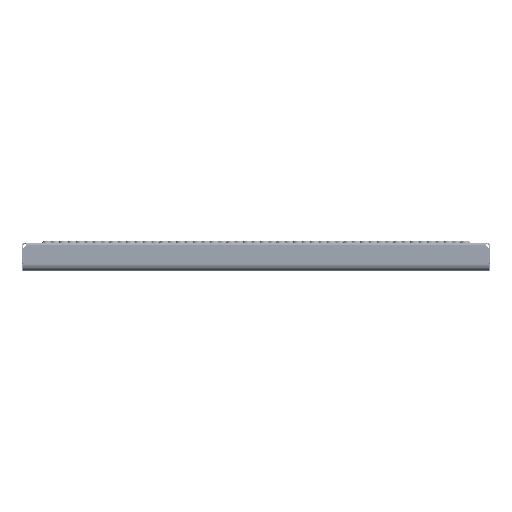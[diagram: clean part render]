
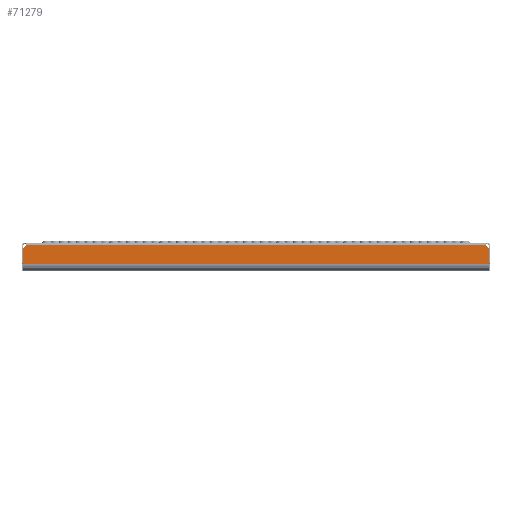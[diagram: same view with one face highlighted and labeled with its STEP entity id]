
A CAD part, top view. The second image highlights one B-rep face of the part: STEP entity #71279.
In plain terms, the highlighted planar face has unit normal (0, 0, 1).
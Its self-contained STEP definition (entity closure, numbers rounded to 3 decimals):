
#353 = DIRECTION ( 'NONE',  ( 1., 0., 0. ) ) ;
#1780 = DIRECTION ( 'NONE',  ( 0., 1., 0. ) ) ;
#12132 = ORIENTED_EDGE ( 'NONE', *, *, #234662, .F. ) ;
#21401 = ORIENTED_EDGE ( 'NONE', *, *, #286156, .T. ) ;
#23781 = VERTEX_POINT ( 'NONE', #144482 ) ;
#25395 = VERTEX_POINT ( 'NONE', #149241 ) ;
#26067 = AXIS2_PLACEMENT_3D ( 'NONE', #336856, #100936, #342008 ) ;
#27793 = LINE ( 'NONE', #189159, #295708 ) ;
#46678 = DIRECTION ( 'NONE',  ( 0., -1., 0. ) ) ;
#56649 = VECTOR ( 'NONE', #353, 1000. ) ;
#60093 = CARTESIAN_POINT ( 'NONE',  ( 347.99, -7.185, 137.5 ) ) ;
#69026 = EDGE_CURVE ( 'NONE', #230756, #25395, #146912, .T. ) ;
#70577 = CIRCLE ( 'NONE', #253321, 5. ) ;
#71279 = ADVANCED_FACE ( 'NONE', ( #312504 ), #123509, .T. ) ;
#76172 = CARTESIAN_POINT ( 'NONE',  ( -347.99, -7.185, 137.5 ) ) ;
#76513 = AXIS2_PLACEMENT_3D ( 'NONE', #234458, #154683, #206777 ) ;
#97430 = VERTEX_POINT ( 'NONE', #60093 ) ;
#100936 = DIRECTION ( 'NONE',  ( 0., 0., -1. ) ) ;
#103496 = DIRECTION ( 'NONE',  ( 0., 0., -1. ) ) ;
#106765 = ORIENTED_EDGE ( 'NONE', *, *, #158004, .T. ) ;
#117417 = CARTESIAN_POINT ( 'NONE',  ( -347.99, -31.998, 137.5 ) ) ;
#123509 = PLANE ( 'NONE',  #76513 ) ;
#127812 = DIRECTION ( 'NONE',  ( 0., -1., 0. ) ) ;
#144482 = CARTESIAN_POINT ( 'NONE',  ( -347.99, -7.185, 137.5 ) ) ;
#146912 = LINE ( 'NONE', #117417, #213099 ) ;
#149241 = CARTESIAN_POINT ( 'NONE',  ( 347.99, -31.998, 137.5 ) ) ;
#154683 = DIRECTION ( 'NONE',  ( 0., 0., 1. ) ) ;
#158004 = EDGE_CURVE ( 'NONE', #232495, #23781, #325277, .T. ) ;
#164074 = EDGE_CURVE ( 'NONE', #23781, #230756, #254920, .T. ) ;
#187744 = LINE ( 'NONE', #265779, #56649 ) ;
#189159 = CARTESIAN_POINT ( 'NONE',  ( 347.99, -7.185, 137.5 ) ) ;
#197636 = CARTESIAN_POINT ( 'NONE',  ( 344.302, -4., 137.5 ) ) ;
#206777 = DIRECTION ( 'NONE',  ( 0., -1., 0. ) ) ;
#213099 = VECTOR ( 'NONE', #303031, 1000. ) ;
#219642 = ORIENTED_EDGE ( 'NONE', *, *, #164074, .T. ) ;
#223776 = EDGE_CURVE ( 'NONE', #25395, #97430, #27793, .T. ) ;
#230756 = VERTEX_POINT ( 'NONE', #263639 ) ;
#232495 = VERTEX_POINT ( 'NONE', #290867 ) ;
#234458 = CARTESIAN_POINT ( 'NONE',  ( -349., 270.712, 137.5 ) ) ;
#234662 = EDGE_CURVE ( 'NONE', #232495, #321515, #187744, .T. ) ;
#242619 = ORIENTED_EDGE ( 'NONE', *, *, #223776, .T. ) ;
#253321 = AXIS2_PLACEMENT_3D ( 'NONE', #259595, #103496, #127812 ) ;
#254920 = LINE ( 'NONE', #76172, #278532 ) ;
#259595 = CARTESIAN_POINT ( 'NONE',  ( 349., -2.288, 137.5 ) ) ;
#263639 = CARTESIAN_POINT ( 'NONE',  ( -347.99, -31.998, 137.5 ) ) ;
#265779 = CARTESIAN_POINT ( 'NONE',  ( -349., -4., 137.5 ) ) ;
#268356 = EDGE_LOOP ( 'NONE', ( #326683, #242619, #21401, #12132, #106765, #219642 ) ) ;
#278532 = VECTOR ( 'NONE', #46678, 1000. ) ;
#286156 = EDGE_CURVE ( 'NONE', #97430, #321515, #70577, .T. ) ;
#290867 = CARTESIAN_POINT ( 'NONE',  ( -344.302, -4., 137.5 ) ) ;
#295708 = VECTOR ( 'NONE', #1780, 1000. ) ;
#303031 = DIRECTION ( 'NONE',  ( 1., 0., 0. ) ) ;
#312504 = FACE_OUTER_BOUND ( 'NONE', #268356, .T. ) ;
#321515 = VERTEX_POINT ( 'NONE', #197636 ) ;
#325277 = CIRCLE ( 'NONE', #26067, 5. ) ;
#326683 = ORIENTED_EDGE ( 'NONE', *, *, #69026, .T. ) ;
#336856 = CARTESIAN_POINT ( 'NONE',  ( -349., -2.288, 137.5 ) ) ;
#342008 = DIRECTION ( 'NONE',  ( 0., -1., 0. ) ) ;
